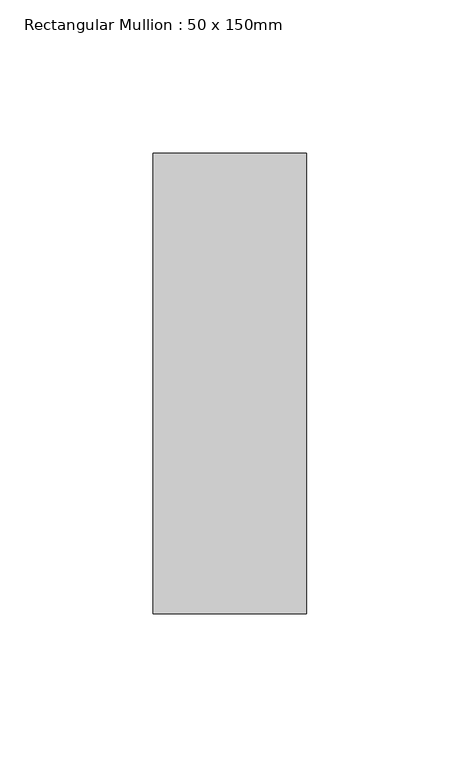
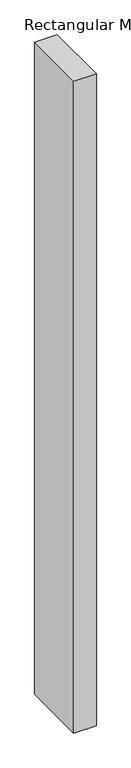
"""IFC4 building model written with IfcOpenShell, lengths in millimetres: member geometry, Rectangular Mullion : 50 x 150mm."""

from ifc_helpers import new_model, si_unit, frame, origin, place, context, project, spatial, polyline, outline, extrude, source, transform, mapped, element, save


def rectangular_mullion_50_x_150mm_b1016fc3(model_context):
    return source(origin(), model_context, "Body", "SweptSolid", [
        extrude(outline(polyline([(0.0, 75.0), (0.0, -75.0), (-50.0, -75.0), (-50.0, 75.0), (0.0, 75.0)])), frame((0.0, 0.0, -1526.9163327), z_axis=(0.0, 0.0, 1.0), x_axis=(1.0, 0.0, 0.0)), (0.0, 0.0, 1.0), 1526.9163327),
    ])


if __name__ == "__main__":
    model = new_model("IFC4")
    model_context = context("Model", 3, world=origin())
    ifc_project = project(units=[si_unit("LENGTHUNIT", "METRE", prefix="MILLI")], contexts=[model_context])
    site = spatial("IfcSite", under=ifc_project)
    building = spatial("IfcBuilding", under=site)
    placement = place(None, origin())
    rectangular_mullion_50_x_150mm_shape = rectangular_mullion_50_x_150mm_b1016fc3(model_context)
    element("IfcMember", 1, ObjectType="Rectangular Mullion : 50 x 150mm", at=placement, inside=building, context=model_context, shape_type="MappedRepresentation", body=[
        mapped(rectangular_mullion_50_x_150mm_shape, transform((0.0, 0.0, 0.0), x_axis=(1.0, 0.0, 0.0), y_axis=(0.0, 1.0, 0.0), z_axis=(0.0, 0.0, 1.0))),
    ])
    save(model, "model.ifc")
